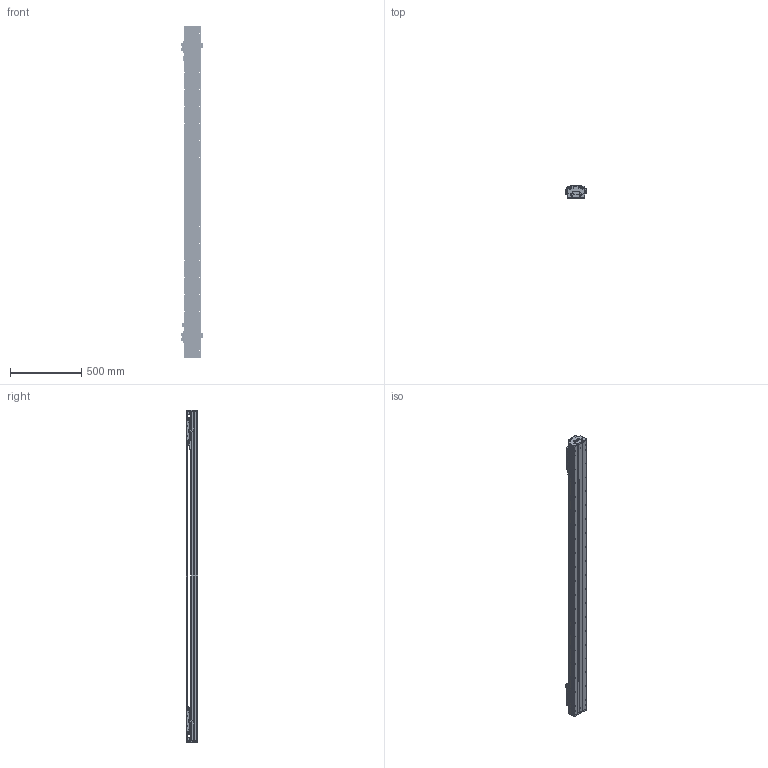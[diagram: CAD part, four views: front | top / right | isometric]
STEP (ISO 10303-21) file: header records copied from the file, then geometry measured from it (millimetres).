
FILE_DESCRIPTION (( 'STEP AP203' ), '1' );
FILE_NAME ('DKW120-2×B2-W060（T1820-L005-0.2）.STEP', '2021-09-28T07:37:38', ( '微软用户' ), ( '微软中国' ), 'SwSTEP 2.0', 'SolidWorks 2018', '' );
FILE_SCHEMA (( 'CONFIG_CONTROL_DESIGN' ));
Length unit declared in the file: millimetre
Products named in the file (24): 10980-0001-003-00 嫖萇羲壽嘐隅釱; 砎蝶猾沭; DKW120-2×B2-W060（T1820-L005-0.2）; DKW-SG-GYP-H-00 嫖萇覜茼え; 12160-0000-003-00 DKW120詩湍嶺輸; B2-W060_00; 12160-0000-004-00  DKW120詩湍揤輸; DKW120-B15-T300-DZ-00 菁釱; DKW119-RU-DTJ-00 RU2黍杅芛盓殤; DKW120 单轴模组-拉钢带组件; MSB15-DG-U; B2-W060; BKMA01-W060-TRL280; 06652-0001-001-00 DKW120傷啣; EE_SX674A; RUS嫖掑喜; 06652-0001-004-00 DKW120嶺輸菜輸; DKW-DG-XJ-Z-00 笢潔滅袉砎蝶; Ru2; DKW-HXJ-JY-00 遣喳砎蝶; DKW-GYP-ZJ-00 笢潔嫖萇覜茼え; RUS嫖掑郪璃; 10940-0001-004-00 120詩湍裔啣; DKW-KGZ-ZJ-00 中间光电开关支架
Assembly tree (41 placements, depth 3):
  DKW120-2×B2-W060（T1820-L005-0.2）
    DKW120-B15-T300-DZ-00 菁釱
    MSB15-DG-U  x2
    DKW120 单轴模组-拉钢带组件
      06652-0001-001-00 DKW120傷啣  x2
      06652-0001-004-00 DKW120嶺輸菜輸  x4
      DKW-HXJ-JY-00 遣喳砎蝶  x4
      10940-0001-004-00 120詩湍裔啣
      砎蝶猾沭  x2
      12160-0000-003-00 DKW120詩湍嶺輸  x2
      12160-0000-004-00  DKW120詩湍揤輸  x2
    BKMA01-W060-TRL280
    RUS嫖掑郪璃
      RUS嫖掑喜
      Ru2
    10980-0001-003-00 嫖萇羲壽嘐隅釱  x2
    B2-W060  x2
      DKW-SG-GYP-H-00 嫖萇覜茼え
      B2-W060_00
      DKW119-RU-DTJ-00 RU2黍杅芛盓殤
    EE_SX674A  x5
    Ru2
    DKW-DG-XJ-Z-00 笢潔滅袉砎蝶
    DKW-GYP-ZJ-00 笢潔嫖萇覜茼え
    DKW-KGZ-ZJ-00 中间光电开关支架
Bounding box: 154.1 x 84 x 2336 mm (x, y, z)
Volume: 8542141.3 mm3; surface area: 3325760.1 mm2
Topology: 60 solids, 158 shells, 6652 faces, 18154 edges, 11707 vertices
Faces by surface type: plane 3658, cylinder 2012, bspline 494, cone 488
Entity records: 147256 total; most frequent: CARTESIAN_POINT 50404, ORIENTED_EDGE 20073, DIRECTION 18692, EDGE_CURVE 10077, VERTEX_POINT 6617, AXIS2_PLACEMENT_3D 6304, VECTOR 6084, LINE 6084
